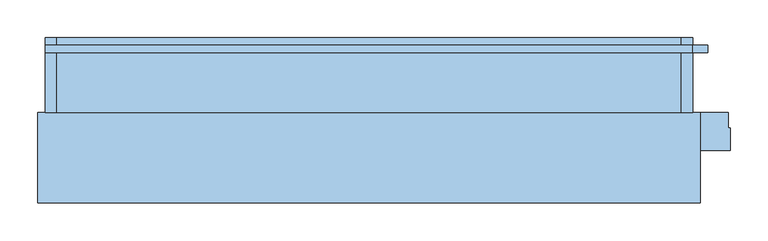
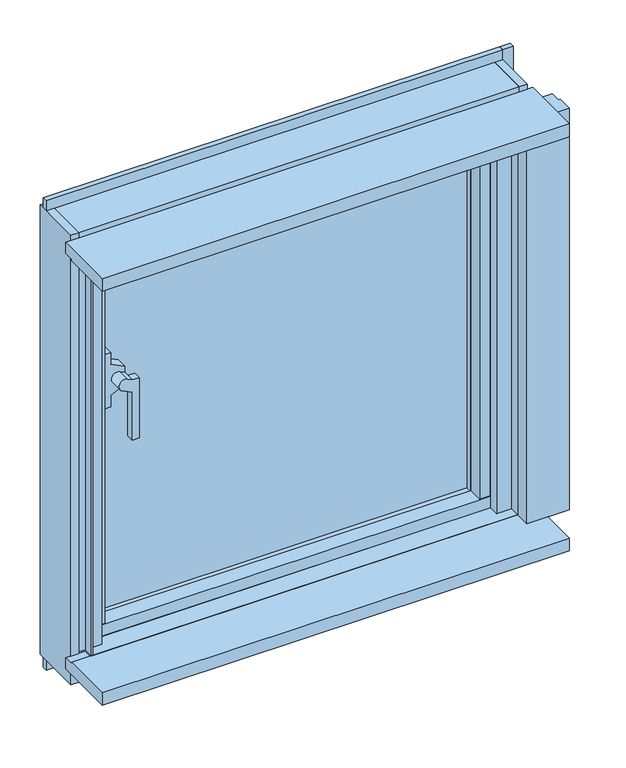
"""IFC4 building model written with IfcOpenShell, lengths in millimetres: window geometry, FNSⅡ100R_個別防火_面付枠_単窓 : たてすべりだし."""

import ifcopenshell
import ifcopenshell.guid

model = None  # the IFC model being written
_history = None  # IfcOwnerHistory: only IFC2X3 demands one
_inside = {}  # id of a spatial element -> (the spatial element, [elements in it])
_under = {}  # id of a project, library or spatial element -> (it, [spatial elements below it])
_declared = {}  # id of a project -> (the project, [libraries it declares])
_typed = {}  # id of a type object -> (the type object, [elements of that type])
_made_of = {}  # id of a material, layer set ... -> (it, [elements and type objects made of it])


def new_model(schema):
    """Start an empty IFC model of exactly this schema.

    Asked for "IFC4X3", IfcOpenShell would pick the latest addendum, in which some entities
    have other attributes; the version numbers below select the first issue.
    IFC2X3 requires an IfcOwnerHistory on every rooted entity: one is made here for all.
    """
    global model, _history
    if schema == "IFC4X3":
        model = ifcopenshell.file(schema_version=(4, 3, 0, 0))
    else:
        model = ifcopenshell.file(schema=schema)
    _inside.clear()
    _under.clear()
    _declared.clear()
    _typed.clear()
    _made_of.clear()
    _history = None
    if model.schema == "IFC2X3":
        org = make("IfcOrganization", Name="unknown")
        user = make(
            "IfcPersonAndOrganization",
            ThePerson=make("IfcPerson", FamilyName="unknown"),
            TheOrganization=org,
        )
        app = make(
            "IfcApplication",
            ApplicationDeveloper=org,
            Version="unknown",
            ApplicationFullName="unknown",
            ApplicationIdentifier="unknown",
        )
        _history = make(
            "IfcOwnerHistory",
            OwningUser=user,
            OwningApplication=app,
            ChangeAction="ADDED",
            CreationDate=0,
        )
    return model


def make(cls, **values):
    """One entity of the class cls with the attributes given. An attribute that is None is left unset."""
    return model.create_entity(
        cls, **{name: value for name, value in values.items() if value is not None}
    )


def rooted(cls, **values):
    """An entity with a GlobalId (a new one), such as an element, a storey or a relation."""
    return make(cls, GlobalId=ifcopenshell.guid.new(), OwnerHistory=_history, **values)


def si_unit(unit_type, name, prefix=None):
    """IfcSIUnit, for example si_unit("LENGTHUNIT", "METRE", prefix="MILLI")."""
    return make("IfcSIUnit", UnitType=unit_type, Prefix=prefix, Name=name)


def assignment(units):
    """IfcUnitAssignment: the units of a project."""
    return None if units is None else make("IfcUnitAssignment", Units=units)


def point(xyz):
    """IfcCartesianPoint."""
    return None if xyz is None else make("IfcCartesianPoint", Coordinates=xyz)


def direction(xyz):
    """IfcDirection."""
    return None if xyz is None else make("IfcDirection", DirectionRatios=xyz)


def frame(location, z_axis=None, x_axis=None):
    """IfcAxis2Placement3D, a coordinate frame: its origin and axes. An axis left out is left unset."""
    return make(
        "IfcAxis2Placement3D",
        Location=point(location),
        Axis=direction(z_axis),
        RefDirection=direction(x_axis),
    )


def origin():
    """The frame at (0, 0, 0) with its axes left unset."""
    return frame((0.0, 0.0, 0.0))


def place(relative_to, where):
    """IfcLocalPlacement: puts the frame where relative to a parent placement (None: the world)."""
    return make(
        "IfcLocalPlacement", PlacementRelTo=relative_to, RelativePlacement=where
    )


def context(
    kind, dimensions, precision=None, world=None, true_north=None, identifier=None
):
    """IfcGeometricRepresentationContext, for example the 3D "Model" context."""
    return make(
        "IfcGeometricRepresentationContext",
        ContextIdentifier=identifier,
        ContextType=kind,
        CoordinateSpaceDimension=dimensions,
        Precision=precision,
        WorldCoordinateSystem=world,
        TrueNorth=true_north,
    )


def project(units=None, contexts=None):
    """IfcProject with its units and contexts."""
    return rooted(
        "IfcProject",
        Name="project",
        RepresentationContexts=contexts,
        UnitsInContext=assignment(units),
    )


def spatial(cls, under=None, at=None, **own):
    """A site, building, storey or space (cls), placed at a placement, below another one or the project."""
    s = rooted(cls, ObjectPlacement=at, **own)
    if under is not None:
        _under.setdefault(under.id(), (under, []))[1].append(s)
    return s


def polyline(points):
    """IfcPolyline through the points."""
    return make("IfcPolyline", Points=[point(p) for p in points])


def circle_curve(where, radius):
    """IfcCircle in the frame where."""
    return make("IfcCircle", Position=where, Radius=radius)


def outline(outer, holes=None, kind="AREA"):
    """IfcArbitraryClosedProfileDef: a profile drawn as a closed curve; with holes, ...WithVoids."""
    if holes is None:
        return make("IfcArbitraryClosedProfileDef", ProfileType=kind, OuterCurve=outer)
    return make(
        "IfcArbitraryProfileDefWithVoids",
        ProfileType=kind,
        OuterCurve=outer,
        InnerCurves=holes,
    )


def extrude(swept, where, along, depth):
    """IfcExtrudedAreaSolid: the profile swept, set in the frame where, extruded along a direction by depth."""
    return make(
        "IfcExtrudedAreaSolid",
        SweptArea=swept,
        Position=where,
        ExtrudedDirection=direction(along),
        Depth=depth,
    )


def faces_of(points, faces, orient=None, outer=None):
    """IfcFace entities. A face is a list of loops; a loop is a list of indices into points, from 0.

    orient and outer hold one flag for each loop. By default every Orientation is true, the
    first loop of a face is its IfcFaceOuterBound and the others are IfcFaceBound.
    """
    made = []
    for i, loops in enumerate(faces):
        bounds = []
        for j, loop in enumerate(loops):
            is_outer = j == 0 if outer is None else outer[i][j]
            bounds.append(
                make(
                    "IfcFaceOuterBound" if is_outer else "IfcFaceBound",
                    Bound=make("IfcPolyLoop", Polygon=[points[k] for k in loop]),
                    Orientation=True if orient is None else orient[i][j],
                )
            )
        made.append(make("IfcFace", Bounds=bounds))
    return made


def faceted_brep(points, faces, orient=None, outer=None, voids=None):
    """IfcFacetedBrep: a solid bounded by flat faces; with voids (closed shells), ...WithVoids."""
    shared = [point(p) for p in points]
    hull = make("IfcClosedShell", CfsFaces=faces_of(shared, faces, orient, outer))
    if voids is None:
        return make("IfcFacetedBrep", Outer=hull)
    return make(
        "IfcFacetedBrepWithVoids",
        Outer=hull,
        Voids=[
            make(cls, CfsFaces=faces_of(shared, fs, o, b)) for cls, fs, o, b in voids
        ],
    )


def shape(context_of_items, identifier, shape_type, items):
    """IfcShapeRepresentation: the items that make up one representation, for example the "Body"."""
    return make(
        "IfcShapeRepresentation",
        ContextOfItems=context_of_items,
        RepresentationIdentifier=identifier,
        RepresentationType=shape_type,
        Items=items,
    )


def source(mapping_origin, context_of_items, identifier, shape_type, items):
    """IfcRepresentationMap: a shape defined once, which mapped items show again and again."""
    return make(
        "IfcRepresentationMap",
        MappingOrigin=mapping_origin,
        MappedRepresentation=shape(context_of_items, identifier, shape_type, items),
    )


def transform(
    local_origin,
    x_axis=None,
    y_axis=None,
    z_axis=None,
    scale=None,
    scale2=None,
    scale3=None,
    uniform=True,
):
    """IfcCartesianTransformationOperator3D, or its non-uniform kind. x_axis, y_axis, z_axis: its Axis1, 2, 3."""
    if uniform:
        return make(
            "IfcCartesianTransformationOperator3D",
            Axis1=direction(x_axis),
            Axis2=direction(y_axis),
            LocalOrigin=point(local_origin),
            Scale=scale,
            Axis3=direction(z_axis),
        )
    return make(
        "IfcCartesianTransformationOperator3DnonUniform",
        Axis1=direction(x_axis),
        Axis2=direction(y_axis),
        LocalOrigin=point(local_origin),
        Scale=scale,
        Axis3=direction(z_axis),
        Scale2=scale2,
        Scale3=scale3,
    )


def mapped(mapping_source, mapping_target):
    """IfcMappedItem: shows the shape of a source again, moved by a transform."""
    return make(
        "IfcMappedItem", MappingSource=mapping_source, MappingTarget=mapping_target
    )


def made_of(thing, what):
    """Note that an element or type object is made of a material, layer set ...; save() writes the relation."""
    if what is not None:
        _made_of.setdefault(what.id(), (what, []))[1].append(thing)
    return thing


def element(
    cls,
    number,
    at=None,
    inside=None,
    cuts=None,
    type_object=None,
    material=None,
    context=None,
    identifier="Body",
    shape_type=None,
    held_by="IfcProductDefinitionShape",
    body=None,
    shapes=None,
    **own,
):
    """One element of the class cls, such as IfcWall. Its Tag is "e" and its number.

    at: its placement. inside: the storey or other place that contains it. cuts: it is an
    opening in that element (IfcRelVoidsElement). A single representation is given by context,
    identifier, shape_type and body (its items); several are given by shapes. held_by: the class
    of the entity that holds the representations. save() writes the other relations.
    """
    e = rooted(cls, Tag="e%d" % number, ObjectPlacement=at, **own)
    if body is not None:
        shapes = [shape(context, identifier, shape_type, body)]
    if shapes is not None:
        e.Representation = make(held_by, Representations=shapes)
    if inside is not None:
        _inside.setdefault(inside.id(), (inside, []))[1].append(e)
    if cuts is not None:
        rooted(
            "IfcRelVoidsElement", RelatingBuildingElement=cuts, RelatedOpeningElement=e
        )
    if type_object is not None:
        _typed.setdefault(type_object.id(), (type_object, []))[1].append(e)
    return made_of(e, material)


def aggregate(whole, parts):
    """IfcRelAggregates: a whole, such as a stair, and the parts it consists of."""
    return rooted("IfcRelAggregates", RelatingObject=whole, RelatedObjects=parts)


def save(model, path):
    """Write the relations noted so far, then the file.

    IfcRelAggregates (storeys below a building ...), IfcRelContainedInSpatialStructure (elements
    in a storey), IfcRelDefinesByType, IfcRelAssociatesMaterial and IfcRelDeclares: one each for
    every whole, place, type object, material and project.
    """
    for whole, parts in _under.values():
        aggregate(whole, parts)
    for where, things in _inside.values():
        rooted(
            "IfcRelContainedInSpatialStructure",
            RelatedElements=things,
            RelatingStructure=where,
        )
    for kind, things in _typed.values():
        rooted("IfcRelDefinesByType", RelatedObjects=things, RelatingType=kind)
    for what, things in _made_of.values():
        rooted("IfcRelAssociatesMaterial", RelatedObjects=things, RelatingMaterial=what)
    for by, libraries in _declared.values():
        rooted("IfcRelDeclares", RelatingContext=by, RelatedDefinitions=libraries)
    model.write(path)


def plane_surface(at):
    """IfcPlane: the flat surface through the origin of the frame at, square to its z axis."""
    return make("IfcPlane", Position=at)


def cylinder_surface(at, radius):
    """IfcCylindricalSurface: all points at the distance radius from the z axis of the frame at."""
    return make("IfcCylindricalSurface", Position=at, Radius=radius)


def advanced_brep(points, edges, surfaces, faces):
    """IfcAdvancedBrep: a solid bounded by faces that lie on surfaces and meet in shared edges.

    An edge is (start, end): straight between two places in points (the first is 0);
    or (start, end, curve); or (start, end, curve, False) where it runs against its curve.
    A face is (place in surfaces, loops), or (place, loops, False) where it looks against
    its surface's normal. A loop lists edges by number (the first is 1), with a minus sign
    where the edge is run from its end to its start. The first loop is the outer one.
    """
    corners = [point(p) for p in points]
    vertices = [make("IfcVertexPoint", VertexGeometry=c) for c in corners]
    made = []
    for start, end, *more in edges:
        made.append(
            make(
                "IfcEdgeCurve",
                EdgeStart=vertices[start],
                EdgeEnd=vertices[end],
                EdgeGeometry=more[0] if more else make("IfcPolyline", Points=[corners[start], corners[end]]),
                SameSense=more[1] if len(more) > 1 else True,
            )
        )
    hull = []
    for where, loops, *sense in faces:
        bounds = []
        for j, loop in enumerate(loops):
            ring = [make("IfcOrientedEdge", EdgeElement=made[abs(k) - 1], Orientation=k > 0) for k in loop]
            bounds.append(
                make(
                    "IfcFaceOuterBound" if j == 0 else "IfcFaceBound",
                    Bound=make("IfcEdgeLoop", EdgeList=ring),
                    Orientation=True,
                )
            )
        hull.append(make("IfcAdvancedFace", Bounds=bounds, FaceSurface=surfaces[where], SameSense=sense[0] if sense else True))
    return make("IfcAdvancedBrep", Outer=make("IfcClosedShell", CfsFaces=hull))


def window_452e0843(model_context):
    return source(origin(), model_context, "Body", "SolidModel", [
        advanced_brep(
        [(-313.0, 36.25, 1380.7385568), (-313.0, 36.25, 1405.2157929), (-313.0, 26.727, 1405.2157929), (-313.0, 26.727, 1380.7385568), (-313.0, 26.727, 1285.0), (-313.0, 11.75, 1285.0), (-313.0, 11.75, 1380.7385568), (-322.5780089, 11.75, 1409.8870044), (-332.2217924, 11.75, 1390.1128987), (-299.9, 11.75, 1285.0), (-299.9, 11.75, 1405.1670227), (-313.0, 11.75, 1405.1670227), (-322.5780089, 36.25, 1409.8870044), (-332.2217924, 36.25, 1390.1128987), (-299.9, 26.727, 1405.1670227), (-299.9, 26.727, 1285.0)],
        [
            (0, 1),
            (1, 2),
            (2, 3),
            (3, 0),
            (4, 5),
            (5, 6),
            (6, 3),
            (3, 4),
            (7, 8, circle_curve(frame((-327.3999338, 11.75, 1399.9999677), z_axis=(0.0, -1.0, 0.0), x_axis=(1.0, 0.0, 0.0)), 11.0002024)),
            (8, 6),
            (5, 9),
            (9, 10),
            (10, 11),
            (11, 7),
            (12, 1),
            (0, 13),
            (13, 12, circle_curve(frame((-327.3999338, 36.25, 1399.9999677), z_axis=(0.0, 1.0, 0.0), x_axis=(1.0, 0.0, 0.0)), 11.0002024)),
            (7, 12),
            (13, 8),
            (11, 2),
            (14, 15),
            (15, 4),
            (2, 14),
            (15, 9),
            (14, 10),
        ],
        [
            plane_surface(frame((-313.0, 11.75, 1380.7385568), z_axis=(1.0, 0.0, 0.0), x_axis=(0.0, 1.0, 0.0))),
            plane_surface(frame((-313.0, 11.75, 1405.1670227), z_axis=(-1.0, 0.0, 0.0), x_axis=(0.0, 1.0, 0.0))),
            plane_surface(frame((-316.3997314, 11.75, 1399.9999677), z_axis=(0.0, -1.0, 0.0), x_axis=(0.0, 0.0, 1.0))),
            plane_surface(frame((-316.3997314, 36.25, 1399.9999677), z_axis=(0.0, 1.0, 0.0), x_axis=(0.0, 0.0, -1.0))),
            cylinder_surface(frame((-327.3999338, 36.25, 1399.9999677), z_axis=(0.0, -1.0, 0.0), x_axis=(1.0, 0.0, 0.0)), 11.0002024),
            plane_surface(frame((-332.2217924, 11.75, 1390.1128987), z_axis=(-0.4383427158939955, 0.0, -0.8988079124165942), x_axis=(0.0, 1.0, 0.0))),
            plane_surface(frame((-313.0, 11.75, 1405.2157929), z_axis=(0.43834873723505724, 0.0, 0.8988049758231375), x_axis=(0.0, 1.0, 0.0))),
            plane_surface(frame((-312.9, 26.727, 1405.1670227), z_axis=(0.0, 1.0, 0.0), x_axis=(1.0, 0.0, 0.0))),
            plane_surface(frame((-313.0, 11.75, 1285.0), z_axis=(0.0, 0.0, -1.0), x_axis=(0.0, 1.0, 0.0))),
            plane_surface(frame((-299.9, 11.75, 1285.0), z_axis=(1.0, 0.0, 0.0), x_axis=(0.0, 1.0, 0.0))),
            plane_surface(frame((-299.9, 11.75, 1405.1670227), z_axis=(0.0, 0.0, 1.0), x_axis=(0.0, 1.0, 0.0))),
        ],
        [
            (0, [[1, 2, 3, 4]]),
            (1, [[5, 6, 7, 8]]),
            (2, [[9, 10, -6, 11, 12, 13, 14]]),
            (3, [[15, -1, 16, 17]]),
            (4, [[-9, 18, -17, 19]]),
            (5, [[-10, -19, -16, -4, -7]]),
            (6, [[-14, 20, -2, -15, -18]]),
            (7, [[21, 22, -8, -3, 23]]),
            (8, [[-11, -5, -22, 24]]),
            (9, [[-12, -24, -21, 25]]),
            (10, [[-13, -25, -23, -20]]),
        ],
    ),
        extrude(outline(polyline([(1454.0, -353.0), (1346.0, -353.0), (1346.0, -340.0), (1368.8197636, -340.0), (1382.0649514, -313.0), (1417.9350486, -313.0), (1431.1802364, -340.0), (1454.0, -340.0), (1454.0, -353.0)])), frame((0.0, 36.25, 0.0), z_axis=(0.0, 1.0, 0.0), x_axis=(0.0, 0.0, 1.0)), (0.0, 0.0, 1.0), 21.0),
        extrude(outline(polyline([(-353.0, 80.0), (353.0, 80.0), (353.0, 74.0), (-353.0, 74.0), (-353.0, 80.0)])), frame((0.0, 0.0, 919.0), z_axis=(0.0, 0.0, 1.0), x_axis=(1.0, 0.0, 0.0)), (0.0, 0.0, 1.0), 735.0),
        extrude(outline(polyline([(-353.0, 98.0), (353.0, 98.0), (353.0, 92.0), (-353.0, 92.0), (-353.0, 98.0)])), frame((0.0, 0.0, 919.0), z_axis=(0.0, 0.0, 1.0), x_axis=(1.0, 0.0, 0.0)), (0.0, 0.0, 1.0), 735.0),
        faceted_brep([(-400.0, 105.5, 1700.0), (-386.0, 105.5, 1700.0), (-386.0, 103.5, 1700.0), (-372.2, 103.5, 1700.0), (-372.2, 110.0, 1700.0), (-400.0, 110.0, 1700.0), (-400.0, 110.0, 879.0), (-400.0, 105.5, 879.0), (-386.0, 38.0, 879.0), (-372.2, 38.0, 879.0), (-372.2, 38.0, 1684.0), (-386.0, 38.0, 1684.0), (-372.2, 110.0, 879.0), (-372.2, 110.0, 919.0), (-372.2, 61.0, 919.0), (-372.2, 61.0, 1654.0), (-372.2, 110.0, 1654.0), (-372.2, 103.5, 1684.0), (-386.0, 103.5, 1684.0), (-353.0, 61.0, 1654.0), (-353.0, 110.0, 1654.0), (-353.0, 110.0, 919.0), (-353.0, 61.0, 919.0), (-386.0, 105.5, 879.0)], [[[0, 1, 2, 3, 4, 5]], [[0, 5, 6, 7]], [[8, 9, 10, 11]], [[9, 12, 13, 14, 15, 16, 4, 3, 17, 10]], [[18, 17, 3, 2]], [[15, 19, 20, 16]], [[13, 21, 22, 14]], [[7, 6, 12, 9, 8, 23]], [[1, 0, 7, 23]], [[23, 8, 11, 18, 2, 1]], [[5, 4, 16, 20, 21, 13, 12, 6]], [[17, 18, 11, 10]], [[19, 15, 14, 22]], [[20, 19, 22, 21]]]),
        faceted_brep([(400.0, 105.5, 1700.0), (400.0, 110.0, 1700.0), (372.2, 110.0, 1700.0), (372.2, 103.5, 1700.0), (386.0, 103.5, 1700.0), (386.0, 105.5, 1700.0), (400.0, 105.5, 879.0), (400.0, 110.0, 879.0), (372.2, 110.0, 879.0), (372.2, 110.0, 919.0), (353.0, 110.0, 919.0), (353.0, 110.0, 1654.0), (372.2, 110.0, 1654.0), (372.2, 38.0, 879.0), (372.2, 38.0, 1684.0), (372.2, 103.5, 1684.0), (372.2, 61.0, 1654.0), (372.2, 61.0, 919.0), (386.0, 105.5, 879.0), (386.0, 103.5, 1684.0), (353.0, 61.0, 1654.0), (353.0, 61.0, 919.0), (386.0, 38.0, 879.0), (386.0, 38.0, 1684.0)], [[[0, 1, 2, 3, 4, 5]], [[1, 0, 6, 7]], [[2, 1, 7, 8, 9, 10, 11, 12]], [[8, 13, 14, 15, 3, 2, 12, 16, 17, 9]], [[0, 5, 18, 6]], [[15, 19, 4, 3]], [[12, 11, 20, 16]], [[17, 21, 10, 9]], [[20, 11, 10, 21]], [[6, 18, 22, 13, 8, 7]], [[13, 22, 23, 14]], [[22, 18, 5, 4, 19, 23]], [[19, 15, 14, 23]], [[16, 20, 21, 17]]]),
        extrude(outline(polyline([(353.0, 32.5), (353.0, 61.0), (372.2, 61.0), (372.2, 32.5), (353.0, 32.5)])), frame((0.0, 0.0, 922.0), z_axis=(0.0, 0.0, 1.0), x_axis=(1.0, 0.0, 0.0)), (0.0, 0.0, 1.0), 729.0),
        extrude(outline(polyline([(-353.0, 32.5), (-372.2, 32.5), (-372.2, 61.0), (-353.0, 61.0), (-353.0, 32.5)])), frame((0.0, 0.0, 922.0), z_axis=(0.0, 0.0, 1.0), x_axis=(1.0, 0.0, 0.0)), (0.0, 0.0, 1.0), 729.0),
        extrude(outline(polyline([(372.2, 61.0), (372.2, 30.0), (-372.2, 30.0), (-372.2, 61.0), (372.2, 61.0)])), frame((0.0, 0.0, 900.0), z_axis=(0.0, 0.0, 1.0), x_axis=(1.0, 0.0, 0.0)), (0.0, 0.0, 1.0), 22.0),
        extrude(outline(polyline([(110.0, 879.0), (38.0, 879.0), (38.0, 900.0), (61.0, 900.0), (61.0, 919.0), (110.0, 919.0), (110.0, 879.0)])), frame((-372.2, 0.0, 0.0), z_axis=(1.0, 0.0, 0.0), x_axis=(0.0, 1.0, 0.0)), (0.0, 0.0, 1.0), 744.4),
        extrude(outline(polyline([(110.0, 1700.0), (110.0, 1654.0), (61.0, 1654.0), (61.0, 1673.2), (38.0, 1673.2), (38.0, 1684.0), (103.5, 1684.0), (103.5, 1700.0), (110.0, 1700.0)])), frame((-372.2, 0.0, 0.0), z_axis=(1.0, 0.0, 0.0), x_axis=(0.0, 1.0, 0.0)), (0.0, 0.0, 1.0), 744.4),
        extrude(outline(polyline([(372.2, 61.0), (372.2, 30.0), (-372.2, 30.0), (-372.2, 61.0), (372.2, 61.0)])), frame((0.0, 0.0, 1651.0), z_axis=(0.0, 0.0, 1.0), x_axis=(1.0, 0.0, 0.0)), (0.0, 0.0, 1.0), 22.2),
        faceted_brep([(-430.0, 110.0, 1735.0), (-415.0, 110.0, 1735.0), (-415.0, 110.0, 1700.0), (-400.0, 110.0, 1700.0), (-400.0, 110.0, 850.0), (-415.0, 110.0, 850.0), (-415.0, 110.0, 840.0), (-430.0, 110.0, 840.0), (-400.0, 34.0, 850.0), (-378.0, 34.0, 850.0), (-378.0, 29.0, 850.0), (-415.0, 29.0, 850.0), (-378.0, 29.0, 1700.0), (-415.0, 29.0, 1700.0), (-430.0, 10.0, 1735.0), (-415.0, 10.0, 1735.0), (-415.0, 10.0, 840.0), (-430.0, 10.0, 840.0), (-378.0, 34.0, 1700.0), (-400.0, 34.0, 1700.0)], [[[0, 1, 2, 3, 4, 5, 6, 7]], [[4, 8, 9, 10, 11, 5]], [[12, 13, 11, 10]], [[0, 14, 15, 1]], [[7, 6, 16, 17]], [[14, 0, 7, 17]], [[15, 14, 17, 16]], [[1, 15, 16, 6, 5, 11, 13, 2]], [[3, 2, 13, 12, 18, 19]], [[3, 19, 8, 4]], [[18, 12, 10, 9]], [[19, 18, 9, 8]]]),
        faceted_brep([(415.0, 29.0, 1700.0), (378.0, 29.0, 1700.0), (378.0, 29.0, 850.0), (415.0, 29.0, 850.0), (400.0, 34.0, 850.0), (400.0, 110.0, 850.0), (415.0, 110.0, 850.0), (378.0, 34.0, 850.0), (430.0, 10.0, 1735.0), (415.0, 10.0, 1735.0), (415.0, 10.0, 840.0), (430.0, 10.0, 840.0), (430.0, 110.0, 1735.0), (430.0, 110.0, 840.0), (415.0, 110.0, 1735.0), (415.0, 110.0, 1700.0), (415.0, 110.0, 840.0), (400.0, 34.0, 1700.0), (400.0, 110.0, 1700.0), (378.0, 34.0, 1700.0)], [[[0, 1, 2, 3]], [[4, 5, 6, 3, 2, 7]], [[8, 9, 10, 11]], [[12, 8, 11, 13]], [[9, 14, 15, 0, 3, 6, 16, 10]], [[9, 8, 12, 14]], [[10, 16, 13, 11]], [[17, 18, 5, 4]], [[17, 19, 1, 0, 15, 18]], [[14, 12, 13, 16, 6, 5, 18, 15]], [[19, 17, 4, 7]], [[1, 19, 7, 2]]]),
        extrude(outline(polyline([(400.0, -10.0), (400.0, 10.0), (372.0, 10.0), (372.0, 29.0), (415.0, 29.0), (415.0, 10.0), (403.0, 10.0), (403.0, -10.0), (400.0, -10.0)])), frame((0.0, 0.0, 900.0), z_axis=(0.0, 0.0, 1.0), x_axis=(1.0, 0.0, 0.0)), (0.0, 0.0, 1.0), 803.0),
        extrude(outline(polyline([(-415.0, 10.0), (-415.0, 29.0), (-372.0, 29.0), (-372.0, 10.0), (-400.0, 10.0), (-400.0, -10.0), (-403.0, -10.0), (-403.0, 10.0), (-415.0, 10.0)])), frame((0.0, 0.0, 900.0), z_axis=(0.0, 0.0, 1.0), x_axis=(1.0, 0.0, 0.0)), (0.0, 0.0, 1.0), 803.0),
        extrude(outline(polyline([(10.0, 890.0), (10.0, 897.0), (-10.0, 897.0), (-10.0, 900.0), (29.0, 900.0), (29.0, 890.0), (10.0, 890.0)])), frame((-403.0, 0.0, 0.0), z_axis=(1.0, 0.0, 0.0), x_axis=(0.0, 1.0, 0.0)), (0.0, 0.0, 1.0), 806.0),
        extrude(outline(polyline([(110.0, 840.0), (10.0, 840.0), (10.0, 890.0), (34.0, 890.0), (34.0, 865.0), (99.0, 865.0), (99.0, 850.0), (110.0, 850.0), (110.0, 840.0)])), frame((-415.0, 0.0, 0.0), z_axis=(1.0, 0.0, 0.0), x_axis=(0.0, 1.0, 0.0)), (0.0, 0.0, 1.0), 830.0),
        extrude(outline(polyline([(29.0, 1673.0), (7.5, 1673.0), (7.5, 1700.0), (-10.0, 1700.0), (-10.0, 1703.0), (10.0, 1703.0), (10.0, 1712.5), (29.0, 1712.5), (29.0, 1673.0)])), frame((-400.0, 0.0, 0.0), z_axis=(1.0, 0.0, 0.0), x_axis=(0.0, 1.0, 0.0)), (0.0, 0.0, 1.0), 800.0),
        extrude(outline(polyline([(110.0, 1700.0), (34.0, 1700.0), (34.0, 1679.0), (29.0, 1679.0), (29.0, 1712.5), (10.0, 1712.5), (10.0, 1735.0), (110.0, 1735.0), (110.0, 1700.0)])), frame((-415.0, 0.0, 0.0), z_axis=(1.0, 0.0, 0.0), x_axis=(0.0, 1.0, 0.0)), (0.0, 0.0, 1.0), 830.0),
        extrude(outline(polyline([(-110.0, 900.0), (-10.0, 900.0), (-10.0, 897.0), (10.0, 897.0), (10.0, 875.0), (-110.0, 875.0), (-110.0, 900.0)])), frame((-440.0, 0.0, 0.0), z_axis=(1.0, 0.0, 0.0), x_axis=(0.0, 1.0, 0.0)), (0.0, 0.0, 1.0), 880.0),
        extrude(outline(polyline([(-430.0, 90.0), (-430.0, 100.0), (430.0, 100.0), (430.0, 90.0), (-430.0, 90.0)])), frame((0.0, 0.0, 820.0), z_axis=(0.0, 0.0, 1.0), x_axis=(1.0, 0.0, 0.0)), (0.0, 0.0, 1.0), 20.0),
        extrude(outline(polyline([(450.0, 90.0), (430.0, 90.0), (430.0, 100.0), (450.0, 100.0), (450.0, 90.0)])), frame((0.0, 0.0, 820.0), z_axis=(0.0, 0.0, 1.0), x_axis=(1.0, 0.0, 0.0)), (0.0, 0.0, 1.0), 935.0),
        extrude(outline(polyline([(403.0, -10.0), (403.0, 10.0), (477.0, 10.0), (477.0, -10.0), (480.0, -10.0), (480.0, -40.0), (400.0, -40.0), (400.0, -10.0), (403.0, -10.0)])), frame((0.0, 0.0, 900.0), z_axis=(0.0, 0.0, 1.0), x_axis=(1.0, 0.0, 0.0)), (0.0, 0.0, 1.0), 800.0),
        extrude(outline(polyline([(-110.0, 1725.0), (10.0, 1725.0), (10.0, 1703.0), (-10.0, 1703.0), (-10.0, 1700.0), (-110.0, 1700.0), (-110.0, 1725.0)])), frame((-440.0, 0.0, 0.0), z_axis=(1.0, 0.0, 0.0), x_axis=(0.0, 1.0, 0.0)), (0.0, 0.0, 1.0), 880.0),
        extrude(outline(polyline([(-430.0, 90.0), (-430.0, 100.0), (430.0, 100.0), (430.0, 90.0), (-430.0, 90.0)])), frame((0.0, 0.0, 1735.0), z_axis=(0.0, 0.0, 1.0), x_axis=(1.0, 0.0, 0.0)), (0.0, 0.0, 1.0), 20.0),
    ])


if __name__ == "__main__":
    model = new_model("IFC4")
    model_context = context("Model", 3, world=origin())
    ifc_project = project(units=[si_unit("LENGTHUNIT", "METRE", prefix="MILLI")], contexts=[model_context])
    site = spatial("IfcSite", under=ifc_project)
    building = spatial("IfcBuilding", under=site)
    placement = place(None, origin())
    window_shape = window_452e0843(model_context)
    element("IfcWindow", 1, ObjectType="FNSⅡ100R_個別防火_面付枠_単窓 : たてすべりだし", at=placement, inside=building, context=model_context, shape_type="MappedRepresentation", body=[
        mapped(window_shape, transform((0.0, 0.0, 0.0), x_axis=(1.0, 0.0, 0.0), y_axis=(0.0, 1.0, 0.0), z_axis=(0.0, 0.0, 1.0))),
    ])
    save(model, "model.ifc")
